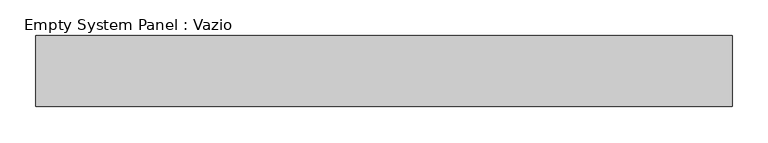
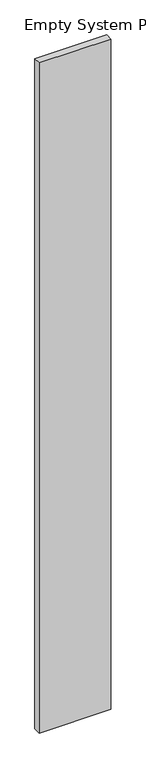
"""IFC4 building model written with IfcOpenShell, lengths in millimetres: plate geometry, Empty System Panel : Vazio."""

from ifc_helpers import new_model, si_unit, frame, origin, place, context, project, spatial, polyline, outline, extrude, source, transform, mapped, element, save


def empty_system_panel_vazio_9f99d891(model_context):
    return source(origin(), model_context, "Body", "SweptSolid", [
        extrude(outline(polyline([(0.0, -490.0), (0.0, 490.0), (9686.7198508, 490.0), (9686.6583917, -490.0), (0.0, -490.0)])), frame((0.0, 50.0, 0.0), z_axis=(0.0, 1.0, 0.0), x_axis=(0.0, 0.0, 1.0)), (0.0, 0.0, 1.0), 100.0),
    ])


if __name__ == "__main__":
    model = new_model("IFC4")
    model_context = context("Model", 3, world=origin())
    ifc_project = project(units=[si_unit("LENGTHUNIT", "METRE", prefix="MILLI")], contexts=[model_context])
    site = spatial("IfcSite", under=ifc_project)
    building = spatial("IfcBuilding", under=site)
    placement = place(None, origin())
    empty_system_panel_vazio_shape = empty_system_panel_vazio_9f99d891(model_context)
    element("IfcPlate", 1, ObjectType="Empty System Panel : Vazio", at=placement, inside=building, context=model_context, shape_type="MappedRepresentation", body=[
        mapped(empty_system_panel_vazio_shape, transform((0.0, 0.0, 0.0), x_axis=(1.0, 0.0, 0.0), y_axis=(0.0, 1.0, 0.0), z_axis=(0.0, 0.0, 1.0))),
    ])
    save(model, "model.ifc")
